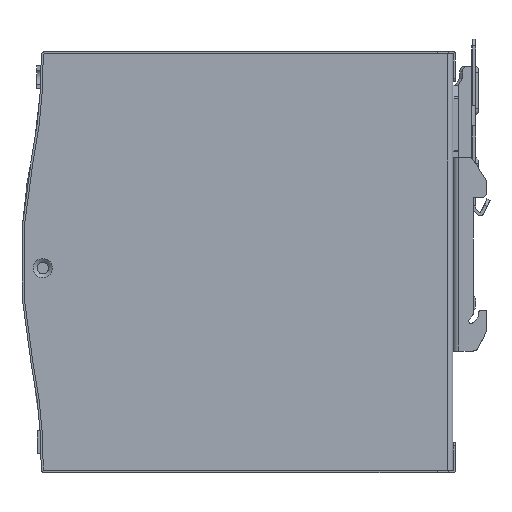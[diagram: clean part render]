
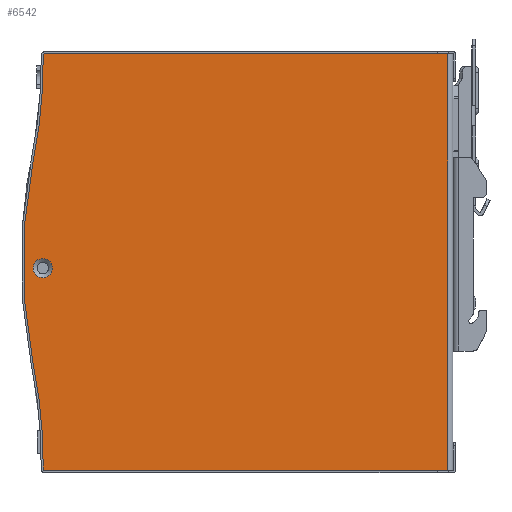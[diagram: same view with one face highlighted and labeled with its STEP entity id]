
A CAD part, front view. The second image highlights one B-rep face of the part: STEP entity #6542.
In plain terms, the highlighted planar face has unit normal (0, -1, 0).
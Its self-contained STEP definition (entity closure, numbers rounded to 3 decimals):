
#6382=CARTESIAN_POINT('',(95.953,13.236,74.0));
#6383=VERTEX_POINT('',#6382);
#6391=CARTESIAN_POINT('',(95.953,13.236,-50.0));
#6392=VERTEX_POINT('',#6391);
#6393=CARTESIAN_POINT('',(95.953,13.236,74.0));
#6394=DIRECTION('',(0.0,0.0,-1.0));
#6395=VECTOR('',#6394,124.0);
#6396=LINE('',#6393,#6395);
#6397=EDGE_CURVE('',#6383,#6392,#6396,.T.);
#6464=CARTESIAN_POINT('',(-13.667,13.236,0.0));
#6465=DIRECTION('',(0.0,-1.0,0.0));
#6466=DIRECTION('',(0.0,0.0,-1.0));
#6467=AXIS2_PLACEMENT_3D('',#6464,#6465,#6466);
#6468=PLANE('',#6467);
#6469=CARTESIAN_POINT('',(-23.789,13.236,-50.));
#6470=VERTEX_POINT('',#6469);
#6471=CARTESIAN_POINT('',(-23.789,13.236,-50.0));
#6472=DIRECTION('',(1.0,0.0,0.0));
#6473=VECTOR('',#6472,119.742);
#6474=LINE('',#6471,#6473);
#6475=EDGE_CURVE('',#6470,#6392,#6474,.T.);
#6476=ORIENTED_EDGE('',*,*,#6475,.T.);
#6477=ORIENTED_EDGE('',*,*,#6397,.F.);
#6478=CARTESIAN_POINT('',(-23.789,13.236,74.));
#6479=VERTEX_POINT('',#6478);
#6480=CARTESIAN_POINT('',(-23.789,13.236,74.0));
#6481=DIRECTION('',(1.0,0.0,0.0));
#6482=VECTOR('',#6481,119.742);
#6483=LINE('',#6480,#6482);
#6484=EDGE_CURVE('',#6479,#6383,#6483,.T.);
#6485=ORIENTED_EDGE('',*,*,#6484,.F.);
#6486=CARTESIAN_POINT('',(-24.289,13.236,73.495));
#6487=VERTEX_POINT('',#6486);
#6488=CARTESIAN_POINT('',(-23.789,13.236,73.5));
#6489=DIRECTION('',(0.0,-1.0,0.0));
#6490=DIRECTION('',(-1.0,0.0,0.0));
#6491=AXIS2_PLACEMENT_3D('',#6488,#6489,#6490);
#6492=CIRCLE('',#6491,0.5);
#6493=EDGE_CURVE('',#6479,#6487,#6492,.T.);
#6494=ORIENTED_EDGE('',*,*,#6493,.T.);
#6495=CARTESIAN_POINT('',(-27.314,13.236,42.01));
#6496=VERTEX_POINT('',#6495);
#6497=CARTESIAN_POINT('',(-174.282,13.236,72.019));
#6498=DIRECTION('',(0.0,-1.0,0.0));
#6499=DIRECTION('',(0.0,0.0,-1.0));
#6500=AXIS2_PLACEMENT_3D('',#6497,#6498,#6499);
#6501=CIRCLE('',#6500,150.);
#6502=EDGE_CURVE('',#6496,#6487,#6501,.T.);
#6503=ORIENTED_EDGE('',*,*,#6502,.F.);
#6504=CARTESIAN_POINT('',(-27.314,13.236,-18.01));
#6505=VERTEX_POINT('',#6504);
#6506=CARTESIAN_POINT('',(119.653,13.236,12.));
#6507=DIRECTION('',(0.0,-1.0,0.0));
#6508=DIRECTION('',(0.0,0.0,-1.0));
#6509=AXIS2_PLACEMENT_3D('',#6506,#6507,#6508);
#6510=CIRCLE('',#6509,150.);
#6511=EDGE_CURVE('',#6496,#6505,#6510,.T.);
#6512=ORIENTED_EDGE('',*,*,#6511,.T.);
#6513=CARTESIAN_POINT('',(-24.289,13.236,-49.495));
#6514=VERTEX_POINT('',#6513);
#6515=CARTESIAN_POINT('',(-174.282,13.236,-48.019));
#6516=DIRECTION('',(0.0,-1.0,0.0));
#6517=DIRECTION('',(0.0,0.0,-1.0));
#6518=AXIS2_PLACEMENT_3D('',#6515,#6516,#6517);
#6519=CIRCLE('',#6518,150.);
#6520=EDGE_CURVE('',#6514,#6505,#6519,.T.);
#6521=ORIENTED_EDGE('',*,*,#6520,.F.);
#6522=CARTESIAN_POINT('',(-23.789,13.236,-49.5));
#6523=DIRECTION('',(0.0,-1.0,0.0));
#6524=DIRECTION('',(-1.0,0.0,0.0));
#6525=AXIS2_PLACEMENT_3D('',#6522,#6523,#6524);
#6526=CIRCLE('',#6525,0.5);
#6527=EDGE_CURVE('',#6514,#6470,#6526,.T.);
#6528=ORIENTED_EDGE('',*,*,#6527,.T.);
#6529=EDGE_LOOP('',(#6476,#6477,#6485,#6494,#6503,#6512,#6521,#6528));
#6530=FACE_OUTER_BOUND('',#6529,.T.);
#6531=CARTESIAN_POINT('',(-21.597,13.236,10.25));
#6532=VERTEX_POINT('',#6531);
#6533=CARTESIAN_POINT('',(-24.447,13.236,10.25));
#6534=DIRECTION('',(0.0,-1.0,0.0));
#6535=DIRECTION('',(1.0,0.0,0.0));
#6536=AXIS2_PLACEMENT_3D('',#6533,#6534,#6535);
#6537=CIRCLE('',#6536,2.85);
#6538=EDGE_CURVE('',#6532,#6532,#6537,.T.);
#6539=ORIENTED_EDGE('',*,*,#6538,.F.);
#6540=EDGE_LOOP('',(#6539));
#6541=FACE_BOUND('',#6540,.T.);
#6542=ADVANCED_FACE('',(#6530,#6541),#6468,.T.);
